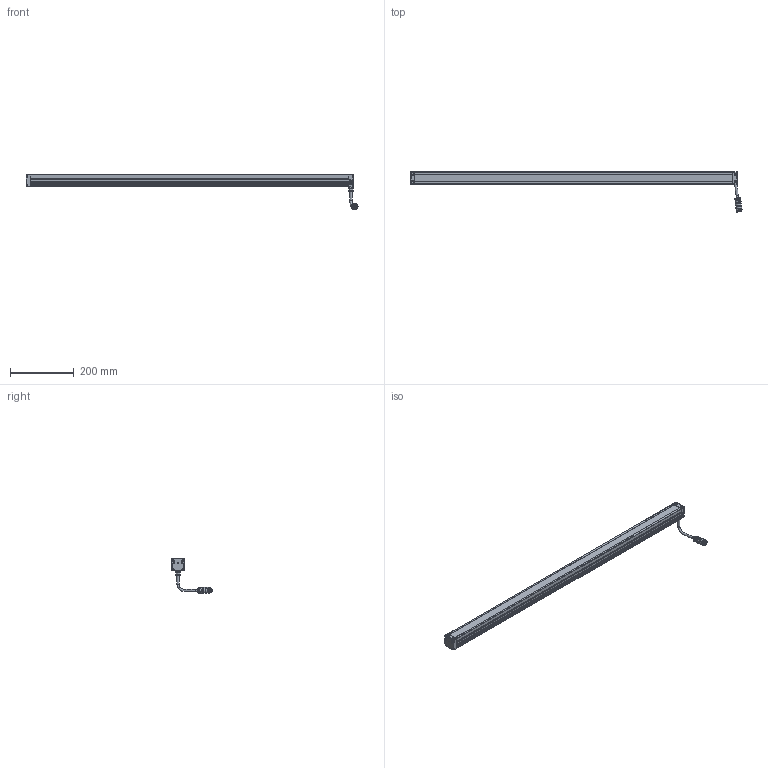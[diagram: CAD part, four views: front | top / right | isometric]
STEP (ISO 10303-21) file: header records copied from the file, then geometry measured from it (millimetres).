
FILE_DESCRIPTION(/* description */ (''),/* implementation_level */ '2;1');
FILE_NAME(/* name */ 'LBHP1000',/* time_stamp */ '2025-01-14T08:08:08+01:00',/* author */ (''),/* organization */ ('iiM AG'),/* preprocessor_version */ 'ST-DEVELOPER v16.7',/* originating_system */ 'DEX',/* authorisation */ $);
FILE_SCHEMA (('AUTOMOTIVE_DESIGN {1 0 10303 214 3 1 1}'));
Length unit declared in the file: millimetre
Products named in the file (1): step export
Bounding box: 1044.79 x 126.2 x 109.58 mm (x, y, z)
Volume: 1319779.7 mm3; surface area: 294325 mm2
Topology: 2 solids, 2 shells, 882 faces, 2334 edges, 1476 vertices
Faces by surface type: cylinder 368, plane 336, cone 138, sphere 21, torus 16, bspline 3
Full cylindrical faces by diameter (mm): 1.001 x12, 2.693 x4, 3 x2, 3.1 x4, 3.242 x6, 3.8 x8, 5.6 x8, 6 x8, 6.8 x2, 8.008 x1, 10 x1, 11 x1, 12.9 x2, 14 x1, 15.015 x1, 16.016 x1, 17.518 x1, 18.519 x3, 18.619 x2
Entity records: 32582 total; most frequent: CARTESIAN_POINT 6224, ORIENTED_EDGE 4118, DIRECTION 4048, EDGE_CURVE 2059, AXIS2_PLACEMENT_3D 1523, VERTEX_POINT 1383, FACE_BOUND 1100, EDGE_LOOP 1086
